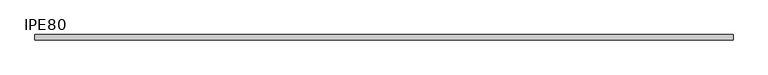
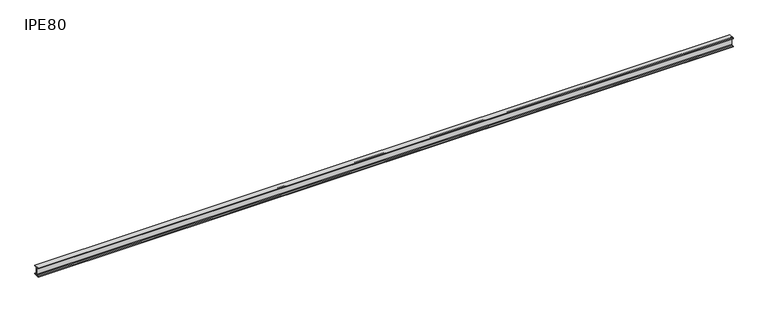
"""IFC4 building model written with IfcOpenShell, lengths in millimetres: beam geometry, IPE-Poutrelles : IPE80."""

from ifc_helpers import new_model, si_unit, point, frame, frame_2d, origin, place, context, project, spatial, polyline, circle_curve, trimmed, segment, composite_curve, outline, extrude, source, transform, mapped, element, save


def ipe80_938a78f6(model_context):
    return source(origin(), model_context, "Body", "SweptSolid", [
        extrude(outline(composite_curve([segment(polyline([(23.0, -34.8), (23.0, -40.0), (-23.0, -40.0), (-23.0, -34.8), (-6.9, -34.8)]), True, "CONTINUOUS"), segment(trimmed(circle_curve(frame_2d((-6.9, -29.8)), 5.0), [point((-6.9, -34.8))], [point((-1.9, -29.8))], True, "CARTESIAN"), True, "CONTINUOUS"), segment(polyline([(-1.9, -29.8), (-1.9, 29.8)]), True, "CONTINUOUS"), segment(trimmed(circle_curve(frame_2d((-6.9, 29.8)), 5.0), [point((-1.9, 29.8))], [point((-6.9, 34.8))], True, "CARTESIAN"), True, "CONTINUOUS"), segment(polyline([(-6.9, 34.8), (-23.0, 34.8), (-23.0, 40.0), (23.0, 40.0), (23.0, 34.8), (6.9, 34.8)]), True, "CONTINUOUS"), segment(trimmed(circle_curve(frame_2d((6.9, 29.8)), 5.0), [point((6.9, 34.8))], [point((1.9, 29.8))], True, "CARTESIAN"), True, "CONTINUOUS"), segment(polyline([(1.9, 29.8), (1.9, -29.8)]), True, "CONTINUOUS"), segment(trimmed(circle_curve(frame_2d((6.9, -29.8)), 5.0), [point((1.9, -29.8))], [point((6.9, -34.8))], True, "CARTESIAN"), True, "CONTINUOUS"), segment(polyline([(6.9, -34.8), (23.0, -34.8)]), True, "CONTINUOUS")], self_intersect=False)), frame((-2973.0, 0.0, 0.0), z_axis=(1.0, 0.0, 0.0), x_axis=(0.0, 1.0, 0.0)), (0.0, 0.0, 1.0), 5946.0),
    ])


if __name__ == "__main__":
    model = new_model("IFC4")
    model_context = context("Model", 3, world=origin())
    ifc_project = project(units=[si_unit("LENGTHUNIT", "METRE", prefix="MILLI")], contexts=[model_context])
    site = spatial("IfcSite", under=ifc_project)
    building = spatial("IfcBuilding", under=site)
    placement = place(None, origin())
    ipe80_shape = ipe80_938a78f6(model_context)
    element("IfcBeam", 1, ObjectType="IPE-Poutrelles : IPE80", at=placement, inside=building, context=model_context, shape_type="MappedRepresentation", body=[
        mapped(ipe80_shape, transform((0.0, 0.0, 0.0), x_axis=(1.0, 0.0, 0.0), y_axis=(0.0, 1.0, 0.0), z_axis=(0.0, 0.0, 1.0))),
    ])
    save(model, "model.ifc")
